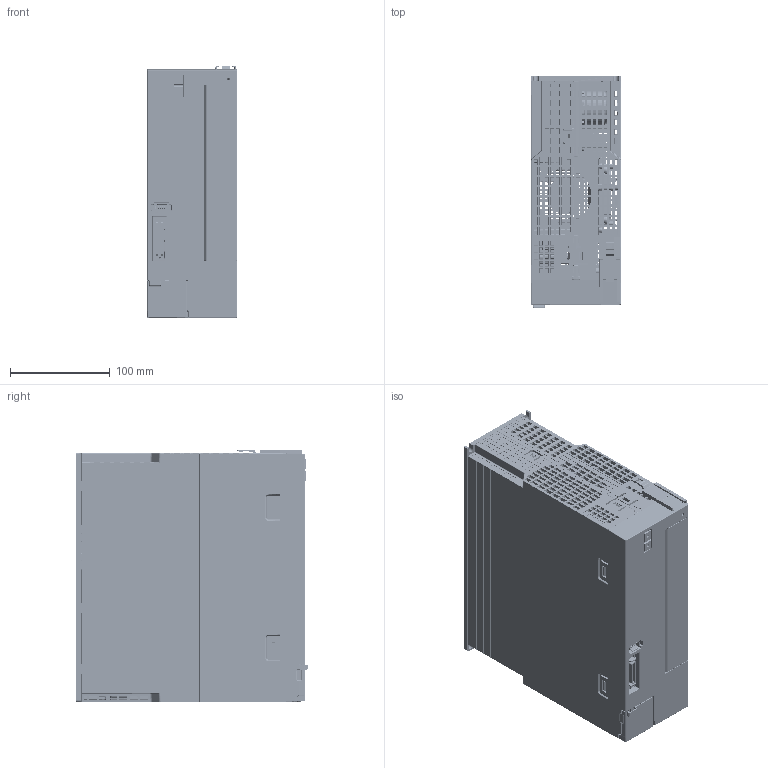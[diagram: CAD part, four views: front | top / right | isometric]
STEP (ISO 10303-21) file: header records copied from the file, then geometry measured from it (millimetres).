
FILE_DESCRIPTION((''),'2;1');
FILE_NAME('000-FD635P-AYYED_ASM','2025-04-16T15:04:21',('19759'),(''),'CREO PARAMETRIC BY PTC INC, 2016510','CREO PARAMETRIC BY PTC INC, 2016510','');
FILE_SCHEMA(('CONFIG_CONTROL_DESIGN','SHAPE_APPEARANCE_LAYERS_GROUPS'));
Products named in the file (70): FD635P-A; ZT_2_1; ZT_2_2; ZT_2_3; ZT_2_4; ZT_2_5; ZT_2_6; ZT_2_7; ZT_2_8; ZT_2_9; ZT_2_10; ZT_2_11; ZT_2_12; ZT_2_13; ZT_2_14; ZT_2_ASM; F-50R-13_0-13P-C_1__ASM; 35X58_SNAP; C-4-2842289-0-A-3D; TRANS; SAMPLING_RESISTOR; SOLID1-13; SOLID1-14; 224_FP50R12KT4G_ECONO3B_L_X_F6T_ASM; INFINEON-FP75R12KT4-3D-MODEL-PC_ASM; 00-FD635P-PCB-A_ASM; FD435P-B; SCSI_FEMALE1; MALE_ASM; CON_1394_90; CON-1394_ASM; USER_LIBRARY-USB-MINI-B_1; USB-MIN_ASM_1_ASM; USB-MIN_ASM_ASM; RJ45; 00-FD435P-PCB-B_ASM; PCB2_FD5P_X; LCD_MONITOR; SWITCH; ESL-SWITCH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
Assembly tree (120 placements, depth 5):
  000-FD635P-AYYED_ASM
    00-FD635P-PCB-A_ASM
      FD635P-A
      F-50R-13_0-13P-C_1__ASM
        ZT_2_ASM
          ZT_2_1
          ZT_2_2
          ZT_2_3
          ZT_2_4
          ZT_2_5
          ZT_2_6
          ZT_2_7
          ZT_2_8
          ZT_2_9
          ZT_2_10
          ZT_2_11
          ZT_2_12
          ZT_2_13
          ZT_2_14
      35X58_SNAP  x4
      C-4-2842289-0-A-3D
      TRANS
      SAMPLING_RESISTOR  x20
      INFINEON-FP75R12KT4-3D-MODEL-PC_ASM
        224_FP50R12KT4G_ECONO3B_L_X_F6T_ASM
          SOLID1-13
          SOLID1-14
    00-FD435P-PCB-B_ASM
      FD435P-B
      MALE_ASM
        SCSI_FEMALE1
      CON-1394_ASM
        CON_1394_90
      USB-MIN_ASM_ASM
        USB-MIN_ASM_1_ASM
          USER_LIBRARY-USB-MINI-B_1
      RJ45
      C-4-2842289-0-A-3D
    ASSY_PCB2_FD5P_ASM
      PCB2_FD5P_X
      LCD_MONITOR
      SWITCH  x4
      ESL-SWITCH
    ASSY_FD635P-HT_ASM
      FD635P-HT2
      SCREW_M3X12  x7
      FD635P-HT-20250120
    FD635P-FRONT-PANEL_ASM
      FRONT-1
    FD635P-FRONT-TERMINAL-COVER_ASM
      635P-TERMINAL-20241108
    FD635P-LEFT_COVER_ASM
      635P-LEFT-20241208
    FD635P-RIGHT_COVER_ASM
      635P-RIGHT-V1_5-20241208
    PL_FRONT_LCD_COVER_MOLD
    FAN_6025
    ASCB3510-80_100
    SCREW_M3X12  x13
    SCREW_M4X10  x2
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Bounding box: 90.28 x 233 x 253.82 mm (x, y, z)
Volume: 1853101.5 mm3; surface area: 1442491.6 mm2
Topology: 112 solids, 155 shells, 23468 faces, 63511 edges, 40633 vertices
Faces by surface type: plane 16021, cylinder 4606, torus 949, bspline 946, cone 567, sphere 333, extrusion 44, revolution 2
Entity records: 804336 total; most frequent: CARTESIAN_POINT 205962, ORIENTED_EDGE 112060, DIRECTION 96718, EDGE_CURVE 56034, VECTOR 42736, LINE 42692, VERTEX_POINT 36259, AXIS2_PLACEMENT_3D 26990
